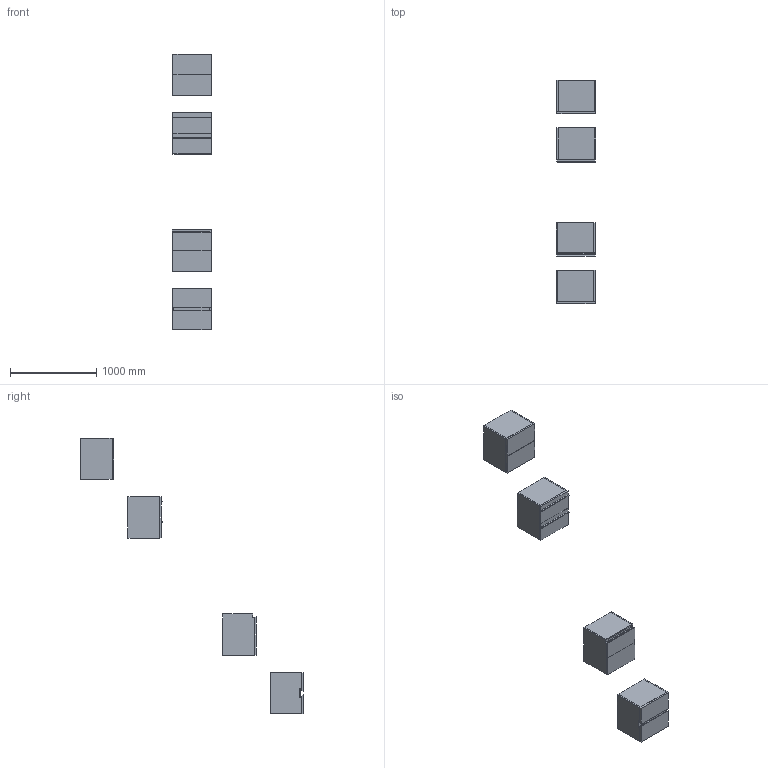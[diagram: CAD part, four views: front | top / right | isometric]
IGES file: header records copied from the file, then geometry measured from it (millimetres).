
Start section: Data from Parasolid IGES Translator 19.0.9, Copyright(c) 2006 Siemens PL M Software. All Rights Reserved.
Global section: file name: noorth-SI-H 48 D 38,8 W 45_8410.igs; native system: By Siemens PLM Incorporated; preprocessor: XPlus GENERIC/IGES 19.0.9; author: Noname; organization: Noname; date: 20200601.102802; units: metre
Bounding box: 453.67 x 2585.1 x 3199.21 mm (x, y, z)
Volume: 60107623.4 mm3; surface area: 9231154.4 mm2
Topology: 33 solids, 33 shells, 318 faces, 700 edges, 428 vertices
Faces by surface type: plane 230, extrusion 36, bspline 32, cylinder 20
